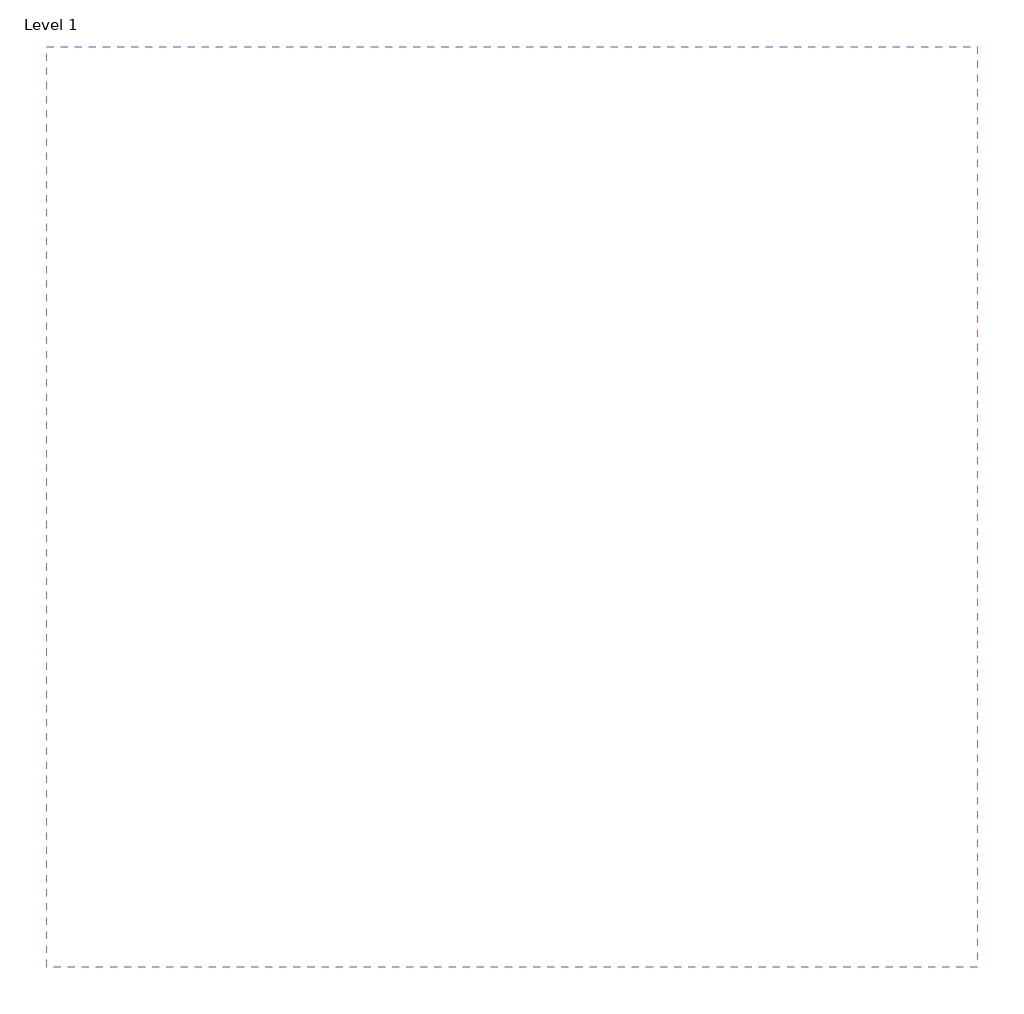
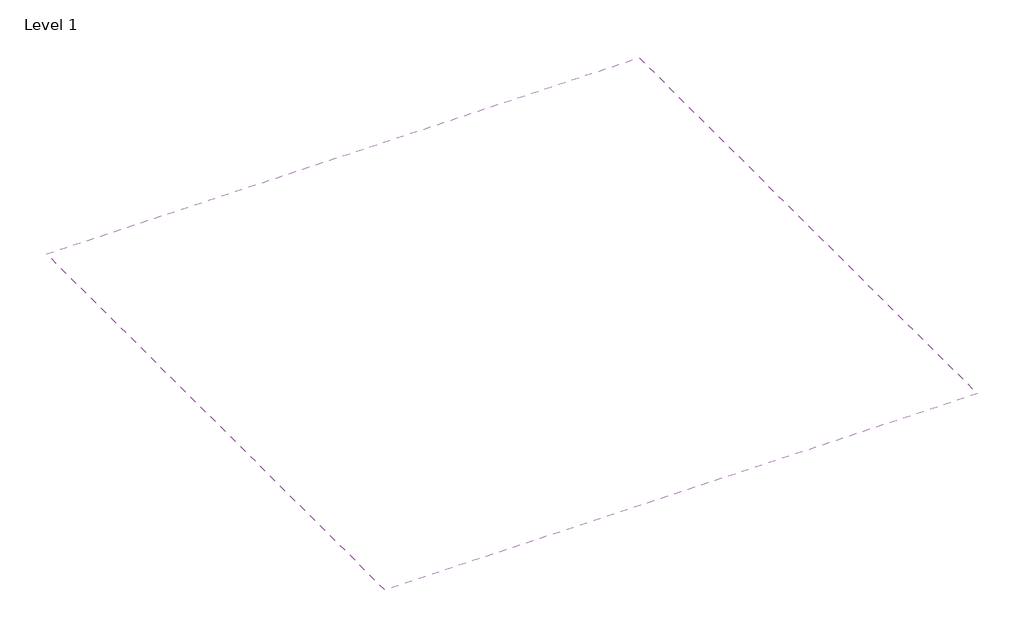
# One storey: 1 covering.
"""IFC4 building model written with IfcOpenShell, lengths in millimetres."""

from ifc_helpers import new_model, si_unit, frame, origin, place, context, project, spatial, polyline, outline, extrude, element, save

model = new_model("IFC4")

# Units and contexts
model_context = context("Model", 3, world=origin())
ifc_project = project(units=[si_unit("LENGTHUNIT", "METRE", prefix="MILLI")], contexts=[model_context])

# Site, building, storey
site = spatial("IfcSite", under=ifc_project)
building = spatial("IfcBuilding", under=site)
storey = spatial("IfcBuildingStorey", under=building, Name="Level 1", Elevation=0.0)

# Covering
placement = place(None, origin())
element("IfcCovering", 1, ObjectType="NBS_ArmstrongCeilingsLtd_UnitModularSuspendedCeilingSystem_DuneSupremeTegular-Prelude24Exposed_600x600x15mm_GB", at=placement, inside=storey, context=model_context, shape_type="SweptSolid", body=[
    extrude(outline(polyline([(2500.0, 2500.0), (2500.0, 27.8726708), (0.0, 27.8726708), (0.0, 2500.0), (2500.0, 2500.0)])), frame((0.0, 0.0, 2600.0), z_axis=(0.0, 0.0, 1.0), x_axis=(1.0, 0.0, 0.0)), (0.0, 0.0, 1.0), 49.5),
])

save(model, "model.ifc")
